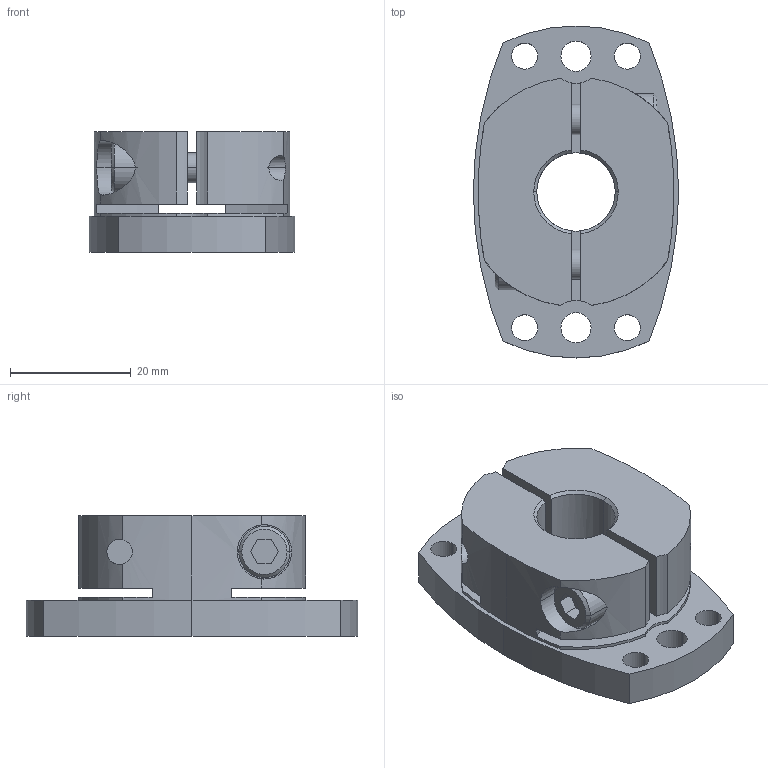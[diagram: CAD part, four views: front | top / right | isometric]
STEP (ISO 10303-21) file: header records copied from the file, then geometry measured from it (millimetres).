
FILE_DESCRIPTION((''),'2;1');
FILE_NAME('SHDB-55B-13.stp','2026-01-28T07:41:41',(''),(''),'AutoCAD STEP 2000i','AutoCAD 2000i',', , ');
FILE_SCHEMA(('CONFIG_CONTROL_DESIGN'));
Length unit declared in the file: millimetre
Products named in the file (2): SHDB-55B-10; 忣兜1
Assembly tree (1 placements, depth 2):
  SHDB-55B-10
    忣兜1
Bounding box: 34 x 55 x 20 mm (x, y, z)
Volume: 19159 mm3; surface area: 9172.2 mm2
Topology: 1 solids, 1 shells, 102 faces, 280 edges, 184 vertices
Faces by surface type: cylinder 58, plane 34, cone 10
Entity records: 3683 total; most frequent: CARTESIAN_POINT 856, DIRECTION 602, ORIENTED_EDGE 560, EDGE_CURVE 280, AXIS2_PLACEMENT_3D 238, VERTEX_POINT 184, CIRCLE 134, VECTOR 126
